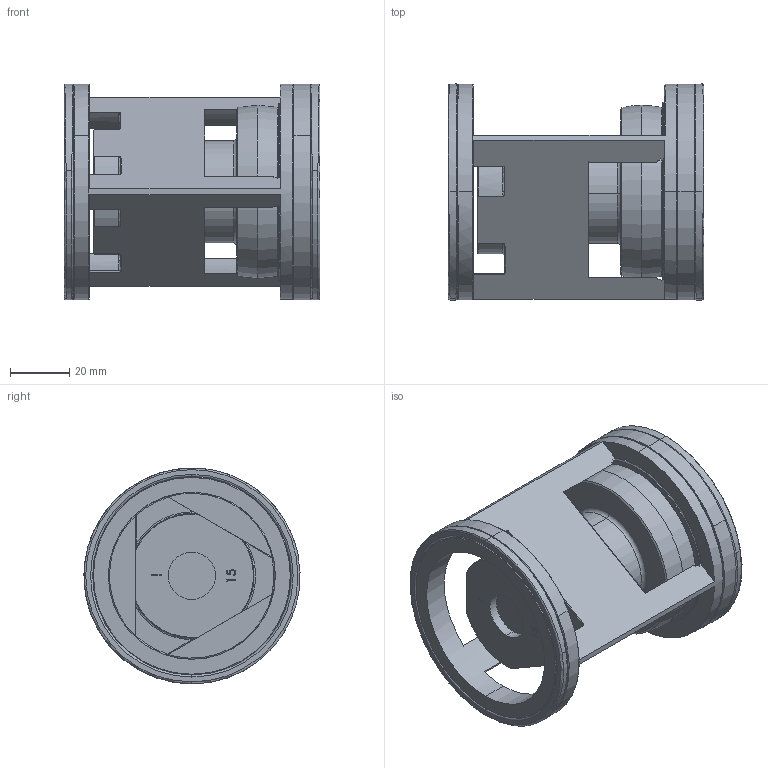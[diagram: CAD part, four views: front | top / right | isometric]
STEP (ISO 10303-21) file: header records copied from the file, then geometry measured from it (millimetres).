
FILE_DESCRIPTION (( 'STEP AP214' ), '1' );
FILE_NAME ('IGS-A-40-N015.STEP', '2025-03-05T19:08:23', ( '' ), ( '' ), 'SwSTEP 2.0', 'SolidWorks 2023', '' );
FILE_SCHEMA (( 'AUTOMOTIVE_DESIGN' ));
Length unit declared in the file: inch
Products named in the file (1): IGS-A-40-N015
Bounding box: 86.59 x 73.19 x 73.16 mm (x, y, z)
Volume: 159456.2 mm3; surface area: 47611.1 mm2
Topology: 1 solids, 3 shells, 229 faces, 632 edges, 405 vertices
Faces by surface type: cylinder 68, plane 63, torus 35, bspline 34, cone 25, sphere 4
Entity records: 14215 total; most frequent: CARTESIAN_POINT 8722, ORIENTED_EDGE 1264, DIRECTION 1038, EDGE_CURVE 632, AXIS2_PLACEMENT_3D 412, VERTEX_POINT 405, EDGE_LOOP 247, FACE_OUTER_BOUND 229
